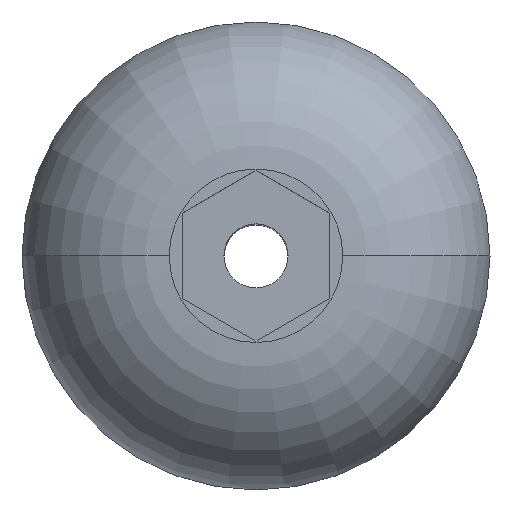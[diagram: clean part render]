
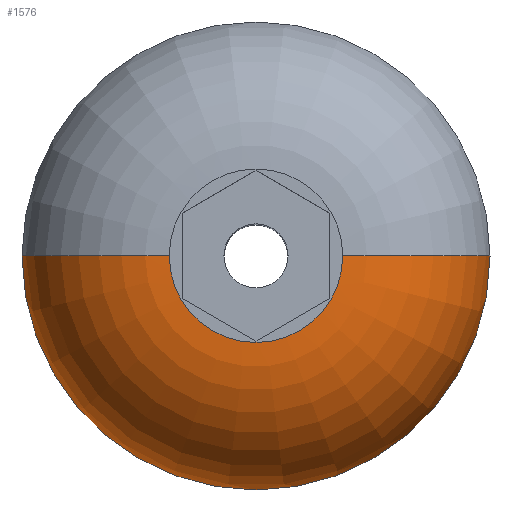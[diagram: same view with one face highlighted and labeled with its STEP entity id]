
A CAD part, top view. The second image highlights one B-rep face of the part: STEP entity #1576.
In plain terms, the highlighted toroidal (fillet/blend) face has major radius 1.76 mm and minor radius 3 mm.
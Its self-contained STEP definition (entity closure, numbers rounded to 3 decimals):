
#27 = CIRCLE ( 'NONE', #278, 1.76 ) ;
#49 = TOROIDAL_SURFACE ( 'NONE', #266, 1.76, 3. ) ;
#266 = AXIS2_PLACEMENT_3D ( 'NONE', #367, #1877, #1409 ) ;
#278 = AXIS2_PLACEMENT_3D ( 'NONE', #1469, #580, #732 ) ;
#367 = CARTESIAN_POINT ( 'NONE',  ( 0., 0., -0.25 ) ) ;
#513 = AXIS2_PLACEMENT_3D ( 'NONE', #769, #1809, #1641 ) ;
#580 = DIRECTION ( 'NONE',  ( 0., 0., 1. ) ) ;
#688 = CARTESIAN_POINT ( 'NONE',  ( -1.76, 0., 2.75 ) ) ;
#719 = CARTESIAN_POINT ( 'NONE',  ( 1.76, 0., 2.75 ) ) ;
#732 = DIRECTION ( 'NONE',  ( 1., 0., 0. ) ) ;
#769 = CARTESIAN_POINT ( 'NONE',  ( -1.76, 0., -0.25 ) ) ;
#780 = DIRECTION ( 'NONE',  ( 0., 0., 1. ) ) ;
#798 = FACE_OUTER_BOUND ( 'NONE', #1228, .T. ) ;
#808 = VERTEX_POINT ( 'NONE', #688 ) ;
#1011 = AXIS2_PLACEMENT_3D ( 'NONE', #1664, #780, #1819 ) ;
#1013 = ORIENTED_EDGE ( 'NONE', *, *, #1220, .F. ) ;
#1024 = AXIS2_PLACEMENT_3D ( 'NONE', #1720, #1281, #1718 ) ;
#1087 = ORIENTED_EDGE ( 'NONE', *, *, #1416, .T. ) ;
#1220 = EDGE_CURVE ( 'NONE', #808, #1810, #27, .T. ) ;
#1228 = EDGE_LOOP ( 'NONE', ( #1853, #1087, #1538, #1013 ) ) ;
#1250 = VERTEX_POINT ( 'NONE', #1918 ) ;
#1269 = CIRCLE ( 'NONE', #513, 3. ) ;
#1281 = DIRECTION ( 'NONE',  ( 0., -1., 0. ) ) ;
#1301 = EDGE_CURVE ( 'NONE', #1589, #808, #1269, .T. ) ;
#1409 = DIRECTION ( 'NONE',  ( 1., 0., 0. ) ) ;
#1416 = EDGE_CURVE ( 'NONE', #1589, #1250, #1920, .T. ) ;
#1469 = CARTESIAN_POINT ( 'NONE',  ( 0., 0., 2.75 ) ) ;
#1538 = ORIENTED_EDGE ( 'NONE', *, *, #1556, .T. ) ;
#1556 = EDGE_CURVE ( 'NONE', #1250, #1810, #1654, .T. ) ;
#1576 = ADVANCED_FACE ( 'NONE', ( #798 ), #49, .T. ) ;
#1589 = VERTEX_POINT ( 'NONE', #1851 ) ;
#1641 = DIRECTION ( 'NONE',  ( -1., 0., 0. ) ) ;
#1654 = CIRCLE ( 'NONE', #1024, 3. ) ;
#1664 = CARTESIAN_POINT ( 'NONE',  ( 0., 0., 0. ) ) ;
#1718 = DIRECTION ( 'NONE',  ( 0., 0., -1. ) ) ;
#1720 = CARTESIAN_POINT ( 'NONE',  ( 1.76, 0., -0.25 ) ) ;
#1809 = DIRECTION ( 'NONE',  ( 0., 1., 0. ) ) ;
#1810 = VERTEX_POINT ( 'NONE', #719 ) ;
#1819 = DIRECTION ( 'NONE',  ( 1., 0., 0. ) ) ;
#1851 = CARTESIAN_POINT ( 'NONE',  ( -4.75, 0., 0. ) ) ;
#1853 = ORIENTED_EDGE ( 'NONE', *, *, #1301, .F. ) ;
#1877 = DIRECTION ( 'NONE',  ( 0., 0., 1. ) ) ;
#1918 = CARTESIAN_POINT ( 'NONE',  ( 4.75, 0., 0. ) ) ;
#1920 = CIRCLE ( 'NONE', #1011, 4.75 ) ;
